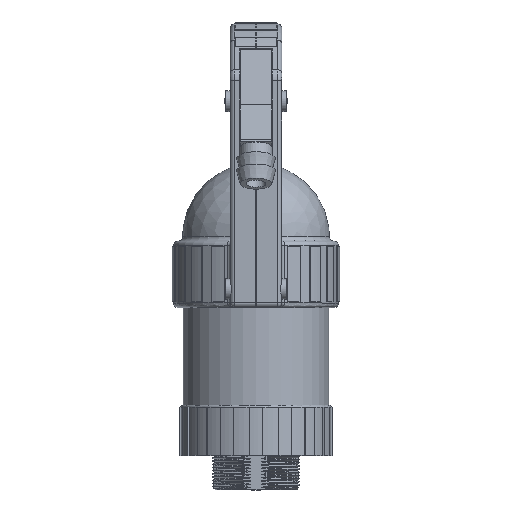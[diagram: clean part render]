
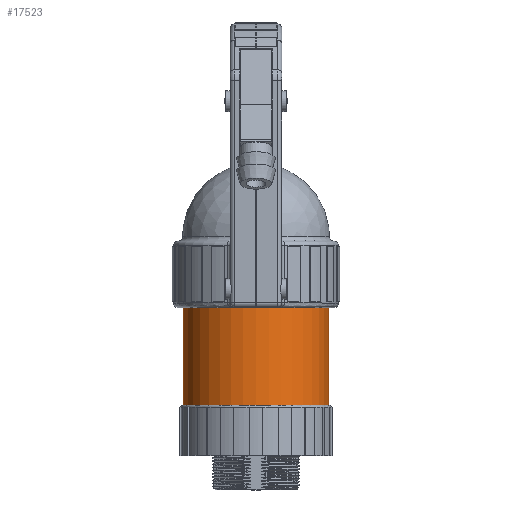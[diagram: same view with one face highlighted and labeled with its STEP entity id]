
A CAD part, top view. The second image highlights one B-rep face of the part: STEP entity #17523.
In plain terms, the highlighted cylindrical face has radius 50.419 mm (diameter 100.838 mm), a full revolution.
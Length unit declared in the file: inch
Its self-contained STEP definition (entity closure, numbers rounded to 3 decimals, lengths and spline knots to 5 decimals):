
#376=CYLINDRICAL_SURFACE('',#18873,1.985);
#1748=LINE('',#35773,#3242);
#3242=VECTOR('',#22248,1.985);
#4482=FACE_OUTER_BOUND('',#5472,.T.);
#5472=EDGE_LOOP('',(#13715,#13716,#13717,#13718,#13719,#13720,#13721,#13722));
#6027=CIRCLE('',#18467,1.985);
#6028=CIRCLE('',#18468,1.985);
#6054=CIRCLE('',#18518,1.985);
#6055=CIRCLE('',#18519,1.985);
#6127=CIRCLE('',#18633,1.985);
#6216=CIRCLE('',#18874,1.985);
#7246=VERTEX_POINT('',#32012);
#7247=VERTEX_POINT('',#32014);
#7275=VERTEX_POINT('',#32072);
#7276=VERTEX_POINT('',#32074);
#7336=VERTEX_POINT('',#32250);
#7555=VERTEX_POINT('',#35771);
#9220=EDGE_CURVE('',#7275,#7246,#6027,.T.);
#9222=EDGE_CURVE('',#7247,#7276,#6028,.T.);
#9313=EDGE_CURVE('',#7336,#7247,#6054,.T.);
#9314=EDGE_CURVE('',#7246,#7336,#6055,.T.);
#9461=EDGE_CURVE('',#7276,#7275,#6127,.T.);
#9723=EDGE_CURVE('',#7555,#7555,#6216,.T.);
#9724=EDGE_CURVE('',#7555,#7336,#1748,.T.);
#13715=ORIENTED_EDGE('',*,*,#9723,.T.);
#13716=ORIENTED_EDGE('',*,*,#9724,.T.);
#13717=ORIENTED_EDGE('',*,*,#9313,.T.);
#13718=ORIENTED_EDGE('',*,*,#9222,.T.);
#13719=ORIENTED_EDGE('',*,*,#9461,.T.);
#13720=ORIENTED_EDGE('',*,*,#9220,.T.);
#13721=ORIENTED_EDGE('',*,*,#9314,.T.);
#13722=ORIENTED_EDGE('',*,*,#9724,.F.);
#17523=ADVANCED_FACE('',(#4482),#376,.T.);
#18467=AXIS2_PLACEMENT_3D('',#32073,#21138,#21139);
#18468=AXIS2_PLACEMENT_3D('',#32076,#21141,#21142);
#18518=AXIS2_PLACEMENT_3D('',#32251,#21306,#21307);
#18519=AXIS2_PLACEMENT_3D('',#32252,#21308,#21309);
#18633=AXIS2_PLACEMENT_3D('',#32848,#21603,#21604);
#18873=AXIS2_PLACEMENT_3D('',#35770,#22244,#22245);
#18874=AXIS2_PLACEMENT_3D('',#35772,#22246,#22247);
#21138=DIRECTION('center_axis',(0.,-1.,0.));
#21139=DIRECTION('ref_axis',(-1.,0.,0.));
#21141=DIRECTION('center_axis',(0.,-1.,0.));
#21142=DIRECTION('ref_axis',(-1.,0.,0.));
#21306=DIRECTION('center_axis',(0.,-1.,0.));
#21307=DIRECTION('ref_axis',(-1.,0.,0.));
#21308=DIRECTION('center_axis',(0.,-1.,0.));
#21309=DIRECTION('ref_axis',(-1.,0.,0.));
#21603=DIRECTION('center_axis',(0.,-1.,0.));
#21604=DIRECTION('ref_axis',(-1.,0.,0.));
#22244=DIRECTION('center_axis',(0.,-1.,0.));
#22245=DIRECTION('ref_axis',(-1.,0.,0.));
#22246=DIRECTION('center_axis',(0.,1.,0.));
#22247=DIRECTION('ref_axis',(-1.,0.,0.));
#22248=DIRECTION('',(0.,1.,0.));
#32012=CARTESIAN_POINT('',(0.0005,4.033,-1.985));
#32014=CARTESIAN_POINT('',(0.0005,4.033,1.985));
#32072=CARTESIAN_POINT('',(-0.0005,4.033,-1.985));
#32073=CARTESIAN_POINT('Origin',(0.,4.033,0.));
#32074=CARTESIAN_POINT('',(-0.0005,4.033,1.985));
#32076=CARTESIAN_POINT('Origin',(0.,4.033,0.));
#32250=CARTESIAN_POINT('',(1.985,4.033,0.));
#32251=CARTESIAN_POINT('Origin',(0.,4.033,0.));
#32252=CARTESIAN_POINT('Origin',(0.,4.033,0.));
#32848=CARTESIAN_POINT('Origin',(0.,4.033,0.));
#35770=CARTESIAN_POINT('Origin',(0.,1.375,0.));
#35771=CARTESIAN_POINT('',(1.985,0.875,0.));
#35772=CARTESIAN_POINT('Origin',(0.,0.875,0.));
#35773=CARTESIAN_POINT('',(1.985,1.375,0.));
